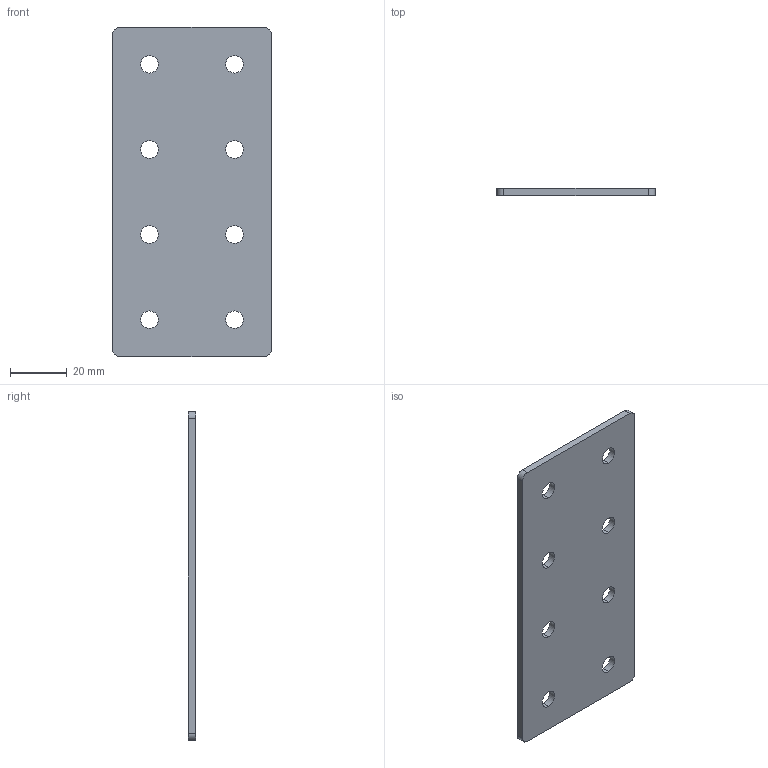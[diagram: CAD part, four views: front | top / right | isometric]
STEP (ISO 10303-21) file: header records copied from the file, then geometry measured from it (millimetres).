
FILE_DESCRIPTION (( 'STEP AP203' ), '1' );
FILE_NAME ('ﾏ-8-30.STEP', '2016-07-23T15:24:20', ( '' ), ( '' ), 'SwSTEP 2.0', 'SolidWorks 2014', '' );
FILE_SCHEMA (( 'CONFIG_CONTROL_DESIGN' ));
Length unit declared in the file: millimetre
Products named in the file (1): ﾏ-8-30
Bounding box: 56 x 2.5 x 116 mm (x, y, z)
Surface area: 13737 mm2 (no closed solid volume)
Topology: 0 solids, 1 shells, 26 faces, 72 edges, 48 vertices
Faces by surface type: cylinder 20, plane 6
Entity records: 965 total; most frequent: DIRECTION 166, CARTESIAN_POINT 147, ORIENTED_EDGE 144, EDGE_CURVE 72, AXIS2_PLACEMENT_3D 67, VERTEX_POINT 48, EDGE_LOOP 42, CIRCLE 40
